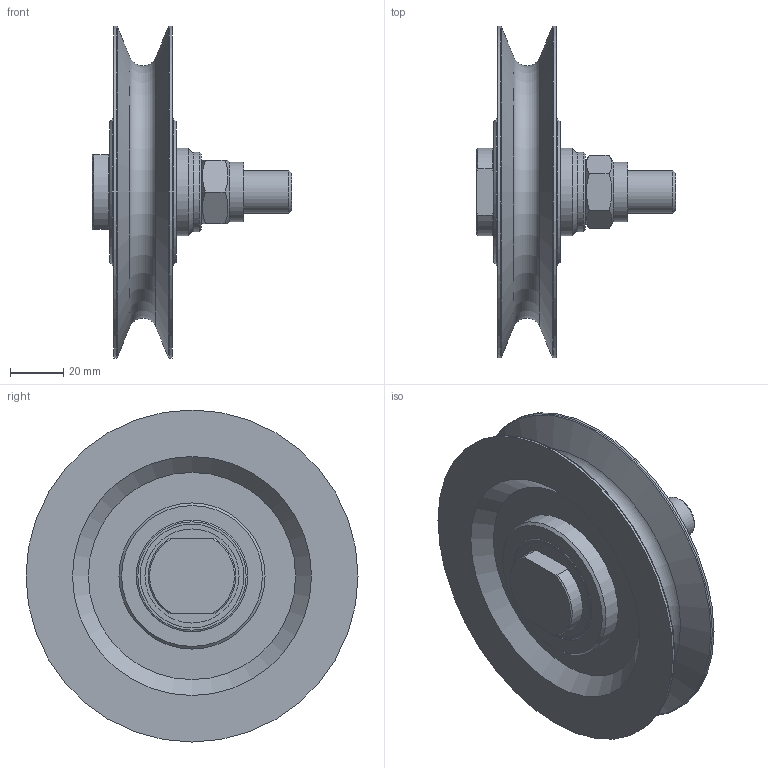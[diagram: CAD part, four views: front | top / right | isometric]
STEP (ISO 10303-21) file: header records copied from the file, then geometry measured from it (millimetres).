
FILE_DESCRIPTION(/* description */ ('Seilrolle ø125 feststehende Achse'),/* implementation_level */ '2;1');
FILE_NAME(/* name */ 'Z:\Workspace\03 Seilrollen\1.408 K Seilrollen feststehende Achse Kugellager\1.408.04 K Seilrolle ø125 feststehende Achse KL\1.408.04 K Seilrolle ø125 feststehende Achse.stp',/* time_stamp */ '2021-10-11T09:15:25+02:00',/* author */ ('cad-user'),/* organization */ (''),/* preprocessor_version */ 'ST-DEVELOPER v18',/* originating_system */ 'Autodesk Inventor 2020',/* authorisation */ '');
FILE_SCHEMA (('AUTOMOTIVE_DESIGN { 1 0 10303 214 3 1 1 }'));
Length unit declared in the file: millimetre
Products named in the file (13): 1.408.04 K Seilrolle ø125 feststehende Achse; 1.402.04 Seilrolle ø125 Kugellager komplett; 1.402.04 Seilrolle ø125 Kugellager; DIN625 - 6004-2RS - P63; din625_-_6004-2rs_-_p63_0_05; din625_-_6004-2rs_-_p63_0_04; din625_-_6004-2rs_-_p63_0_03; din625_-_6004-2rs_-_p63_0_02; din625_-_6004-2rs_-_p63_0_01; 1.408.04.02 K Scheibe; 1.408.04.01 K Schraube; DIN 985 - M16; DIN 125-1 - B 17
Assembly tree (13 placements, depth 4):
  1.408.04 K Seilrolle ø125 feststehende Achse
    1.402.04 Seilrolle ø125 Kugellager komplett
      1.402.04 Seilrolle ø125 Kugellager
      DIN625 - 6004-2RS - P63  x2
        din625_-_6004-2rs_-_p63_0_05
        din625_-_6004-2rs_-_p63_0_04
        din625_-_6004-2rs_-_p63_0_03
        din625_-_6004-2rs_-_p63_0_02
        din625_-_6004-2rs_-_p63_0_01
    1.408.04.02 K Scheibe
    1.408.04.01 K Schraube
    DIN 985 - M16
    DIN 125-1 - B 17
Bounding box: 75 x 125 x 125 mm (x, y, z)
Volume: 183898.9 mm3; surface area: 75957.3 mm2
Topology: 15 solids, 15 shells, 159 faces, 426 edges, 309 vertices
Faces by surface type: plane 50, cylinder 45, torus 31, cone 17, sphere 16
Full cylindrical faces by diameter (mm): 13.835 x1, 16 x1, 17 x1, 20 x3, 21 x1, 22.5 x1, 24.4 x8, 26.6 x4, 30 x1, 33 x1, 35.4 x4, 36 x1, 39 x8, 42 x4, 55 x2, 125 x2
Entity records: 4485 total; most frequent: CARTESIAN_POINT 1200, DIRECTION 658, ORIENTED_EDGE 544, AXIS2_PLACEMENT_3D 301, EDGE_CURVE 272, VERTEX_POINT 207, CIRCLE 164, EDGE_LOOP 155
